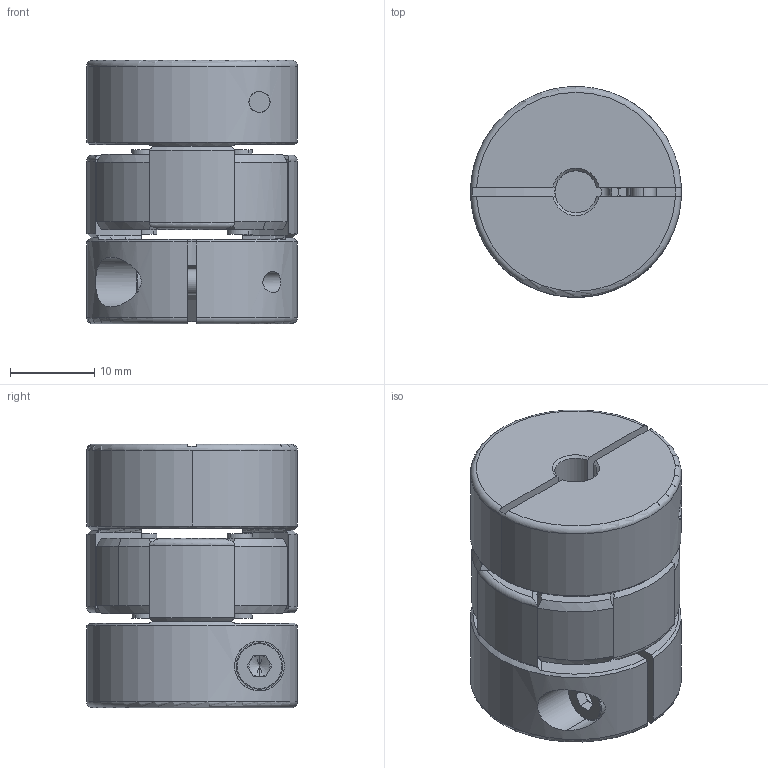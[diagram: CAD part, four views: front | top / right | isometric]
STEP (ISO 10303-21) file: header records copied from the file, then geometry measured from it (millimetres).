
FILE_DESCRIPTION (( 'STEP AP203' ), '1' );
FILE_NAME ('SJC-25C-5X10_203.STEP', '2013-02-18T01:28:11', ( 'MYCOM' ), ( '' ), 'SwSTEP 2.0', 'SolidWorks 2012', '' );
FILE_SCHEMA (( 'CONFIG_CONTROL_DESIGN' ));
Length unit declared in the file: millimetre
Products named in the file (1): SJC-25C-5X10_203
Bounding box: 25 x 25 x 31.25 mm (x, y, z)
Volume: 12312.8 mm3; surface area: 6629.8 mm2
Topology: 1 solids, 1 shells, 242 faces, 632 edges, 392 vertices
Faces by surface type: cylinder 79, cone 65, plane 64, torus 34
Entity records: 8009 total; most frequent: CARTESIAN_POINT 1981, DIRECTION 1292, ORIENTED_EDGE 1256, EDGE_CURVE 628, AXIS2_PLACEMENT_3D 549, VERTEX_POINT 392, CIRCLE 306, EDGE_LOOP 262
